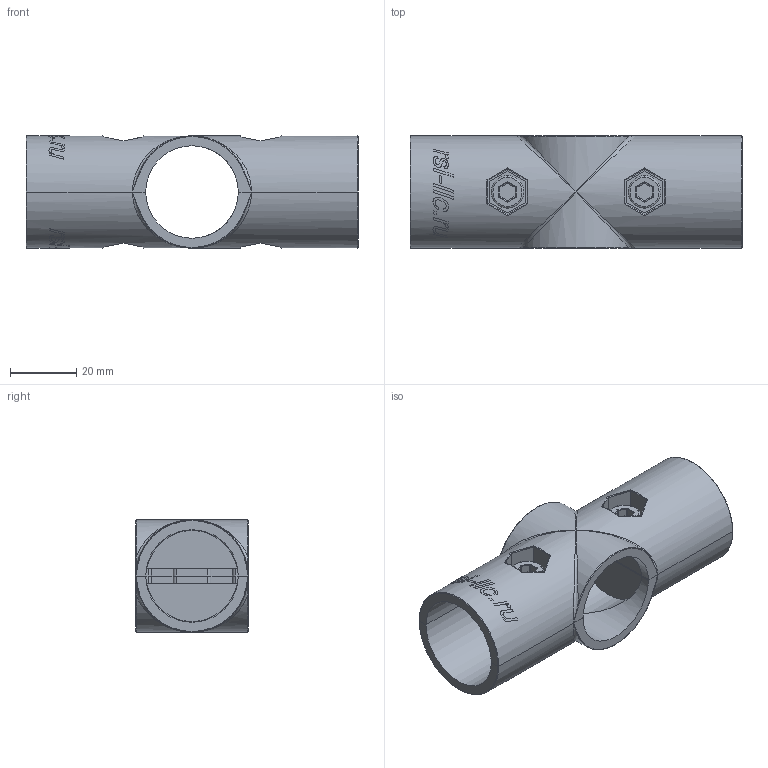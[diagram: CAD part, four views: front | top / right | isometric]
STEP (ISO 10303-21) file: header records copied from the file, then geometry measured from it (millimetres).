
FILE_DESCRIPTION (( 'STEP AP214' ), '1' );
FILE_NAME ('1124.STEP', '2022-08-08T08:06:32', ( 'Home' ), ( '' ), 'SwSTEP 2.0', 'SolidWorks 2020', '' );
FILE_SCHEMA (( 'AUTOMOTIVE_DESIGN' ));
Length unit declared in the file: millimetre
Products named in the file (4): Ãàéêà Ì6; 1124-1; 1124; Âèíò DIN912_Œ6å20
Assembly tree (6 placements, depth 2):
  1124
    1124-1  x2
    Âèíò DIN912_Œ6å20  x2
    Ãàéêà Ì6  x2
Bounding box: 100.5 x 34 x 34.02 mm (x, y, z)
Volume: 41572.2 mm3; surface area: 26719.7 mm2
Topology: 6 solids, 6 shells, 710 faces, 1870 edges, 1178 vertices
Faces by surface type: bspline 224, cylinder 220, plane 168, torus 46, cone 40, sphere 12
Entity records: 27426 total; most frequent: CARTESIAN_POINT 18835, ORIENTED_EDGE 1842, DIRECTION 1117, EDGE_CURVE 921, VERTEX_POINT 589, AXIS2_PLACEMENT_3D 411, EDGE_LOOP 378, ADVANCED_FACE 355
